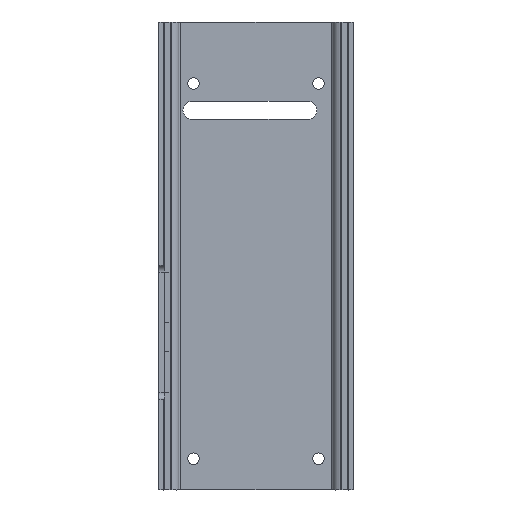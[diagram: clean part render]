
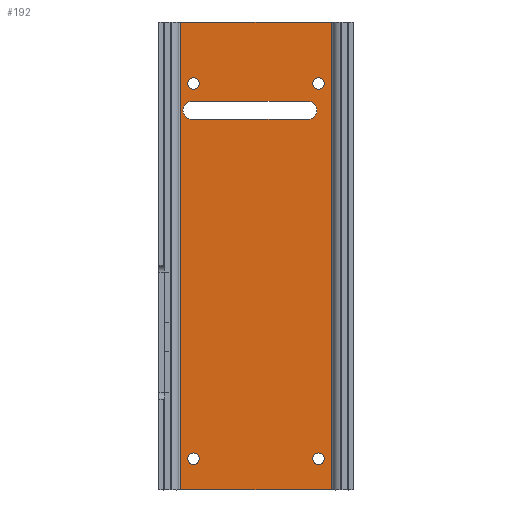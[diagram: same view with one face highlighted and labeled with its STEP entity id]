
A CAD part, front view. The second image highlights one B-rep face of the part: STEP entity #192.
In plain terms, the highlighted planar face has unit normal (0, -1, 0).
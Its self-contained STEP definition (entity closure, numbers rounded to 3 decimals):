
#192=ADVANCED_FACE('',(#455,#456,#457,#458,#459,#331),#1331,.T.);
#331=FACE_OUTER_BOUND('',#514,.F.);
#455=FACE_BOUND('',#509,.F.);
#456=FACE_BOUND('',#510,.F.);
#457=FACE_BOUND('',#511,.F.);
#458=FACE_BOUND('',#512,.F.);
#459=FACE_BOUND('',#513,.F.);
#509=EDGE_LOOP('',(#823,#824));
#510=EDGE_LOOP('',(#825,#826));
#511=EDGE_LOOP('',(#827,#828));
#512=EDGE_LOOP('',(#829,#830));
#513=EDGE_LOOP('',(#831,#832,#833,#834,#835,#836,#837,#838));
#514=EDGE_LOOP('',(#839,#840,#841,#842));
#823=ORIENTED_EDGE('',*,*,#1761,.T.);
#824=ORIENTED_EDGE('',*,*,#1760,.T.);
#825=ORIENTED_EDGE('',*,*,#1769,.T.);
#826=ORIENTED_EDGE('',*,*,#1768,.T.);
#827=ORIENTED_EDGE('',*,*,#1773,.T.);
#828=ORIENTED_EDGE('',*,*,#1772,.T.);
#829=ORIENTED_EDGE('',*,*,#1765,.T.);
#830=ORIENTED_EDGE('',*,*,#1764,.T.);
#831=ORIENTED_EDGE('',*,*,#1754,.T.);
#832=ORIENTED_EDGE('',*,*,#1747,.T.);
#833=ORIENTED_EDGE('',*,*,#1752,.T.);
#834=ORIENTED_EDGE('',*,*,#1749,.T.);
#835=ORIENTED_EDGE('',*,*,#1750,.T.);
#836=ORIENTED_EDGE('',*,*,#1745,.T.);
#837=ORIENTED_EDGE('',*,*,#1756,.T.);
#838=ORIENTED_EDGE('',*,*,#1743,.T.);
#839=ORIENTED_EDGE('',*,*,#1857,.T.);
#840=ORIENTED_EDGE('',*,*,#1886,.F.);
#841=ORIENTED_EDGE('',*,*,#1874,.F.);
#842=ORIENTED_EDGE('',*,*,#1887,.T.);
#1331=PLANE('',#2553);
#1360=LINE('',#3667,#1551);
#1362=LINE('',#3669,#1553);
#1364=LINE('',#3671,#1555);
#1366=LINE('',#3673,#1557);
#1431=LINE('',#3774,#1622);
#1444=LINE('',#3791,#1635);
#1454=LINE('',#3803,#1645);
#1455=LINE('',#3804,#1646);
#1551=VECTOR('',#2743,26.01);
#1553=VECTOR('',#2745,0.01);
#1555=VECTOR('',#2747,26.01);
#1557=VECTOR('',#2749,0.01);
#1622=VECTOR('',#2886,33.601);
#1635=VECTOR('',#2907,33.601);
#1645=VECTOR('',#2921,104.77);
#1646=VECTOR('',#2922,104.77);
#1743=EDGE_CURVE('',#2378,#2377,#2078,.T.);
#1745=EDGE_CURVE('',#2374,#2373,#2080,.T.);
#1747=EDGE_CURVE('',#2370,#2369,#2082,.T.);
#1749=EDGE_CURVE('',#2366,#2365,#2084,.T.);
#1750=EDGE_CURVE('',#2365,#2374,#1360,.T.);
#1752=EDGE_CURVE('',#2369,#2366,#1362,.T.);
#1754=EDGE_CURVE('',#2377,#2370,#1364,.T.);
#1756=EDGE_CURVE('',#2373,#2378,#1366,.T.);
#1760=EDGE_CURVE('',#2362,#2361,#2087,.T.);
#1761=EDGE_CURVE('',#2361,#2362,#2088,.T.);
#1764=EDGE_CURVE('',#2358,#2357,#2091,.T.);
#1765=EDGE_CURVE('',#2357,#2358,#2092,.T.);
#1768=EDGE_CURVE('',#2354,#2353,#2095,.T.);
#1769=EDGE_CURVE('',#2353,#2354,#2096,.T.);
#1772=EDGE_CURVE('',#2350,#2349,#2099,.T.);
#1773=EDGE_CURVE('',#2349,#2350,#2100,.T.);
#1857=EDGE_CURVE('',#2276,#2277,#1431,.T.);
#1874=EDGE_CURVE('',#2265,#2266,#1444,.T.);
#1886=EDGE_CURVE('',#2266,#2277,#1454,.T.);
#1887=EDGE_CURVE('',#2265,#2276,#1455,.T.);
#2078=CIRCLE('',#2436,1.995);
#2080=CIRCLE('',#2438,1.995);
#2082=CIRCLE('',#2440,1.995);
#2084=CIRCLE('',#2442,1.995);
#2087=CIRCLE('',#2445,1.3);
#2088=CIRCLE('',#2446,1.3);
#2091=CIRCLE('',#2449,1.3);
#2092=CIRCLE('',#2450,1.3);
#2095=CIRCLE('',#2453,1.3);
#2096=CIRCLE('',#2454,1.3);
#2099=CIRCLE('',#2457,1.3);
#2100=CIRCLE('',#2458,1.3);
#2265=VERTEX_POINT('',#3543);
#2266=VERTEX_POINT('',#3544);
#2276=VERTEX_POINT('',#3554);
#2277=VERTEX_POINT('',#3555);
#2349=VERTEX_POINT('',#3627);
#2350=VERTEX_POINT('',#3628);
#2353=VERTEX_POINT('',#3631);
#2354=VERTEX_POINT('',#3632);
#2357=VERTEX_POINT('',#3635);
#2358=VERTEX_POINT('',#3636);
#2361=VERTEX_POINT('',#3639);
#2362=VERTEX_POINT('',#3640);
#2365=VERTEX_POINT('',#3643);
#2366=VERTEX_POINT('',#3644);
#2369=VERTEX_POINT('',#3647);
#2370=VERTEX_POINT('',#3648);
#2373=VERTEX_POINT('',#3651);
#2374=VERTEX_POINT('',#3652);
#2377=VERTEX_POINT('',#3655);
#2378=VERTEX_POINT('',#3656);
#2436=AXIS2_PLACEMENT_3D('',#3660,#2729,#2730);
#2438=AXIS2_PLACEMENT_3D('',#3662,#2733,#2734);
#2440=AXIS2_PLACEMENT_3D('',#3664,#2737,#2738);
#2442=AXIS2_PLACEMENT_3D('',#3666,#2741,#2742);
#2445=AXIS2_PLACEMENT_3D('',#3677,#2755,#2756);
#2446=AXIS2_PLACEMENT_3D('',#3678,#2757,#2758);
#2449=AXIS2_PLACEMENT_3D('',#3681,#2763,#2764);
#2450=AXIS2_PLACEMENT_3D('',#3682,#2765,#2766);
#2453=AXIS2_PLACEMENT_3D('',#3685,#2771,#2772);
#2454=AXIS2_PLACEMENT_3D('',#3686,#2773,#2774);
#2457=AXIS2_PLACEMENT_3D('',#3689,#2779,#2780);
#2458=AXIS2_PLACEMENT_3D('',#3690,#2781,#2782);
#2553=AXIS2_PLACEMENT_3D('',#3932,#3118,#3119);
#2729=DIRECTION('',(0.,-1.,0.));
#2730=DIRECTION('',(1.,0.,0.));
#2733=DIRECTION('',(0.,-1.,0.));
#2734=DIRECTION('',(0.,0.,-1.));
#2737=DIRECTION('',(0.,-1.,0.));
#2738=DIRECTION('',(0.,0.,1.));
#2741=DIRECTION('',(0.,-1.,0.));
#2742=DIRECTION('',(-1.,0.,0.));
#2743=DIRECTION('',(1.,0.,0.));
#2745=DIRECTION('',(0.,0.,-1.));
#2747=DIRECTION('',(-1.,0.,0.));
#2749=DIRECTION('',(0.,0.,1.));
#2755=DIRECTION('',(0.,-1.,0.));
#2756=DIRECTION('',(0.,0.,-1.));
#2757=DIRECTION('',(0.,-1.,0.));
#2758=DIRECTION('',(0.,0.,1.));
#2763=DIRECTION('',(0.,-1.,0.));
#2764=DIRECTION('',(0.,0.,-1.));
#2765=DIRECTION('',(0.,-1.,0.));
#2766=DIRECTION('',(0.,0.,1.));
#2771=DIRECTION('',(0.,-1.,0.));
#2772=DIRECTION('',(0.,0.,-1.));
#2773=DIRECTION('',(0.,-1.,0.));
#2774=DIRECTION('',(0.,0.,1.));
#2779=DIRECTION('',(0.,-1.,0.));
#2780=DIRECTION('',(0.,0.,-1.));
#2781=DIRECTION('',(0.,-1.,0.));
#2782=DIRECTION('',(0.,0.,1.));
#2886=DIRECTION('',(1.,0.,0.));
#2907=DIRECTION('',(1.,0.,0.));
#2921=DIRECTION('',(0.,0.,1.));
#2922=DIRECTION('',(0.,0.,1.));
#3118=DIRECTION('',(0.,-1.,0.));
#3119=DIRECTION('',(1.,0.,0.));
#3543=CARTESIAN_POINT('',(-12.044,117.305,-69.027));
#3544=CARTESIAN_POINT('',(21.557,117.305,-69.027));
#3554=CARTESIAN_POINT('',(-12.044,117.305,35.743));
#3555=CARTESIAN_POINT('',(21.557,117.305,35.743));
#3627=CARTESIAN_POINT('',(-9.243,117.305,-60.727));
#3628=CARTESIAN_POINT('',(-9.243,117.305,-63.327));
#3631=CARTESIAN_POINT('',(18.757,117.305,-60.727));
#3632=CARTESIAN_POINT('',(18.757,117.305,-63.327));
#3635=CARTESIAN_POINT('',(18.757,117.305,23.273));
#3636=CARTESIAN_POINT('',(18.757,117.305,20.673));
#3639=CARTESIAN_POINT('',(-9.243,117.305,23.273));
#3640=CARTESIAN_POINT('',(-9.243,117.305,20.673));
#3643=CARTESIAN_POINT('',(-9.598,117.305,13.973));
#3644=CARTESIAN_POINT('',(-11.593,117.305,15.968));
#3647=CARTESIAN_POINT('',(-11.593,117.305,15.978));
#3648=CARTESIAN_POINT('',(-9.598,117.305,17.973));
#3651=CARTESIAN_POINT('',(18.407,117.305,15.968));
#3652=CARTESIAN_POINT('',(16.412,117.305,13.973));
#3655=CARTESIAN_POINT('',(16.412,117.305,17.973));
#3656=CARTESIAN_POINT('',(18.407,117.305,15.978));
#3660=CARTESIAN_POINT('',(16.412,117.305,15.978));
#3662=CARTESIAN_POINT('',(16.412,117.305,15.968));
#3664=CARTESIAN_POINT('',(-9.598,117.305,15.978));
#3666=CARTESIAN_POINT('',(-9.598,117.305,15.968));
#3667=CARTESIAN_POINT('',(-9.598,117.305,13.973));
#3669=CARTESIAN_POINT('',(-11.593,117.305,15.978));
#3671=CARTESIAN_POINT('',(16.412,117.305,17.973));
#3673=CARTESIAN_POINT('',(18.407,117.305,15.968));
#3677=CARTESIAN_POINT('',(-9.243,117.305,21.973));
#3678=CARTESIAN_POINT('',(-9.243,117.305,21.973));
#3681=CARTESIAN_POINT('',(18.757,117.305,21.973));
#3682=CARTESIAN_POINT('',(18.757,117.305,21.973));
#3685=CARTESIAN_POINT('',(18.757,117.305,-62.027));
#3686=CARTESIAN_POINT('',(18.757,117.305,-62.027));
#3689=CARTESIAN_POINT('',(-9.243,117.305,-62.027));
#3690=CARTESIAN_POINT('',(-9.243,117.305,-62.027));
#3774=CARTESIAN_POINT('',(-12.044,117.305,35.743));
#3791=CARTESIAN_POINT('',(-12.044,117.305,-69.027));
#3803=CARTESIAN_POINT('',(21.557,117.305,-69.027));
#3804=CARTESIAN_POINT('',(-12.044,117.305,-69.027));
#3932=CARTESIAN_POINT('',(-13.091,117.305,-70.075));
